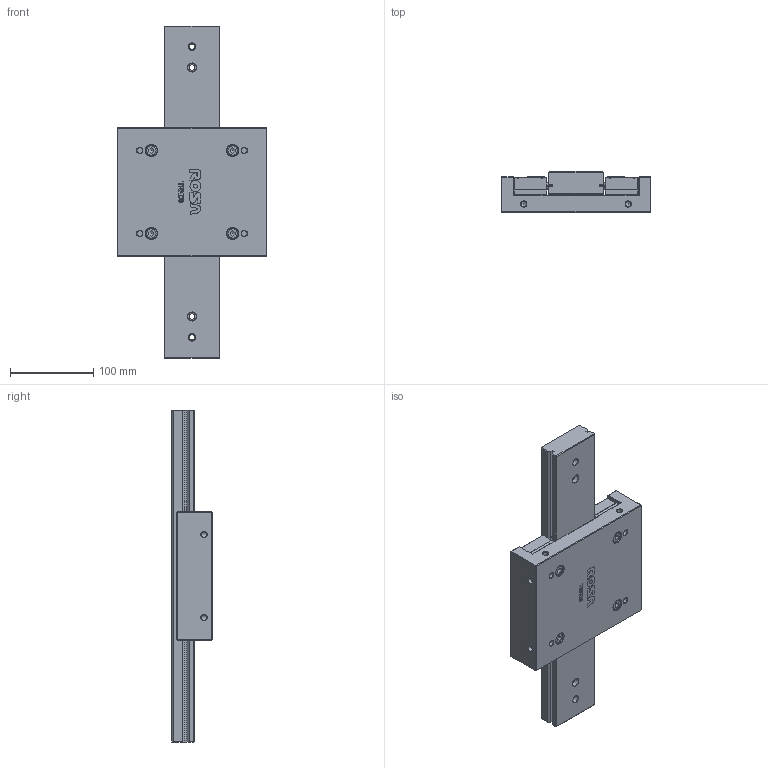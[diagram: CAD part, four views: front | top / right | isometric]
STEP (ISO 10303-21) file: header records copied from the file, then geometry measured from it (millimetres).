
FILE_DESCRIPTION(/* description */ ('TAVOLA TRKD09 L= 400 mm'),/* implementation_level */ '2;1');
FILE_NAME(/* name */ 'TRKD090400-00.stp',/* time_stamp */ '2024-01-29T13:51:03+01:00',/* author */ ('Rosa Sistemi'),/* organization */ (''),/* preprocessor_version */ 'ST-DEVELOPER v20',/* originating_system */ 'Autodesk Inventor 2024',/* authorisation */ '');
FILE_SCHEMA (('AUTOMOTIVE_DESIGN { 1 0 10303 214 3 1 1 }'));
Length unit declared in the file: millimetre
Products named in the file (2): TRKD090400-00; TRKD090400-00_1
Assembly tree (1 placements, depth 2):
  TRKD090400-00
    TRKD090400-00_1
Bounding box: 180 x 49 x 400 mm (x, y, z)
Volume: 1591649.3 mm3; surface area: 223993.8 mm2
Topology: 22 solids, 22 shells, 694 faces, 1770 edges, 1123 vertices
Faces by surface type: plane 426, cone 96, cylinder 87, bspline 31, sphere 30, torus 24
Full cylindrical faces by diameter (mm): 2 x2, 4.134 x4, 4.823 x1, 6 x8, 6.647 x20, 7 x2, 8 x1, 9 x3, 10.5 x8, 13 x4, 13.263 x1, 14 x4
Entity records: 22033 total; most frequent: CARTESIAN_POINT 4847, ORIENTED_EDGE 3396, DIRECTION 3317, EDGE_CURVE 1698, AXIS2_PLACEMENT_3D 1139, VERTEX_POINT 1123, LINE 1039, VECTOR 1039
